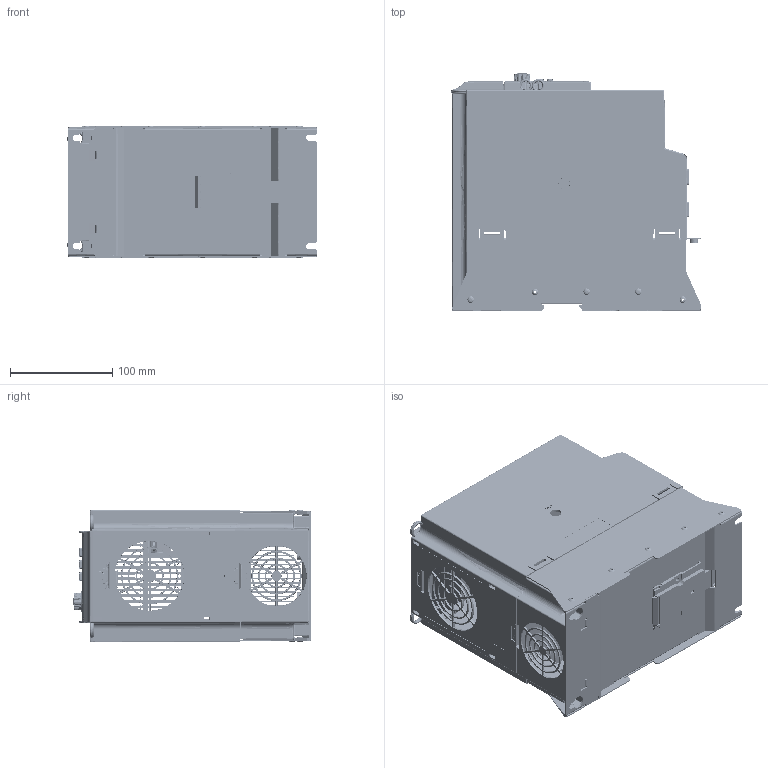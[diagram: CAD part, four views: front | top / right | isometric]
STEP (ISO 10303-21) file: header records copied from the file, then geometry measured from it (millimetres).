
FILE_DESCRIPTION((''),'2;1');
FILE_NAME('EFCX610_5_5_7_5KW_E_HOUSING','2018-06-26T10:12:54',('sha2xi'),(''),'CREO PARAMETRIC BY PTC INC, 2017260','CREO PARAMETRIC BY PTC INC, 2017260','');
FILE_SCHEMA(('AUTOMOTIVE_DESIGN { 1 0 10303 214 1 1 1 1 }'));
Products named in the file (49): VFCX610-5P5KW__BASE_2_1; PRT0001_1; PRT0002_1; ASM0001_1; PRT0003_1; PRT0004_1; ASM0002_1; VFCX610-7P5KW_HEATSINK_3_1; PRT0015_1; PRT0014_1; PRT0017_1; PRT0018_1; PRT0019_1; PRT0020_1; PRT0021_1; PRT0022_1; PRT0023_1; PRT0024_1; MCDN_20150206_1-636328_1; MCDN_20150206_1-636378_1; ASM0005_1; ASM0004_1; PRT0025_1; PRT0026_1; PRT0027_1; PRT0028_1; PRT0029_1; PRT0030_1; PRT0031_1; PRT0032_1; PRT0033_1; PRT0034_1; ASM0007_1; PRT0035_1; PRT0036_1; PRT0037_1; PRT0038_1; PRT0039_1; PRT0040_1; ASM0006_1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
Assembly tree (66 placements, depth 8):
  EFCX610_5_5_7_5KW_E_HOUSING
    EFCX610-E_HOUSING_1
      00_EFCX610-7P5KW_7_1
        ASM0001_1
          VFCX610-5P5KW__BASE_2_1
          PRT0001_1
          PRT0002_1  x10
        ASM0002_1
          PRT0003_1
          PRT0004_1
        VFCX610-7P5KW_HEATSINK_3_1
        PRT0015_1
        PRT0014_1
        ASM0003_1
          PRT0017_1
          ASM0004_1
            PRT0018_1
            PRT0019_1
            PRT0020_1
            PRT0021_1
            PRT0022_1
            PRT0023_1
            PRT0024_1
            ASM0005_1
              MCDN_20150206_1-636378_1
                MCDN_20150206_1-636328_1
          PRT0025_1
          PRT0026_1
          PRT0027_1  x2
          ASM0006_1
            PRT0028_1
            ASM0007_1
              PRT0029_1
              PRT0030_1  x6
              PRT0031_1
              PRT0032_1
              PRT0033_1
              PRT0034_1
            PRT0035_1
            PRT0036_1
            PRT0037_1
            PRT0038_1
            PRT0039_1  x2
            PRT0040_1
          PRT0042_1
          PRT0014_1  x2
        ASM0008_1
          PRT0044_1
        EFCX610-5P5KW_FAN_UPPER_3_1
          PRT0046_1
Bounding box: 243.94 x 232.15 x 130 mm (x, y, z)
Surface area: 1003705 mm2 (no closed solid volume)
Topology: 0 solids, 0 shells, 11246 faces, 61248 edges, 60708 vertices
Faces by surface type: bspline 10735, torus 357, sphere 154
Entity records: 948538 total; most frequent: CARTESIAN_POINT 327205, DIRECTION 79008, TRIMMED_CURVE 72708, VECTOR 67682, LINE 67682, DEFINITIONAL_REPRESENTATION 56180, PCURVE 56180, COMPOSITE_CURVE_SEGMENT 56180
